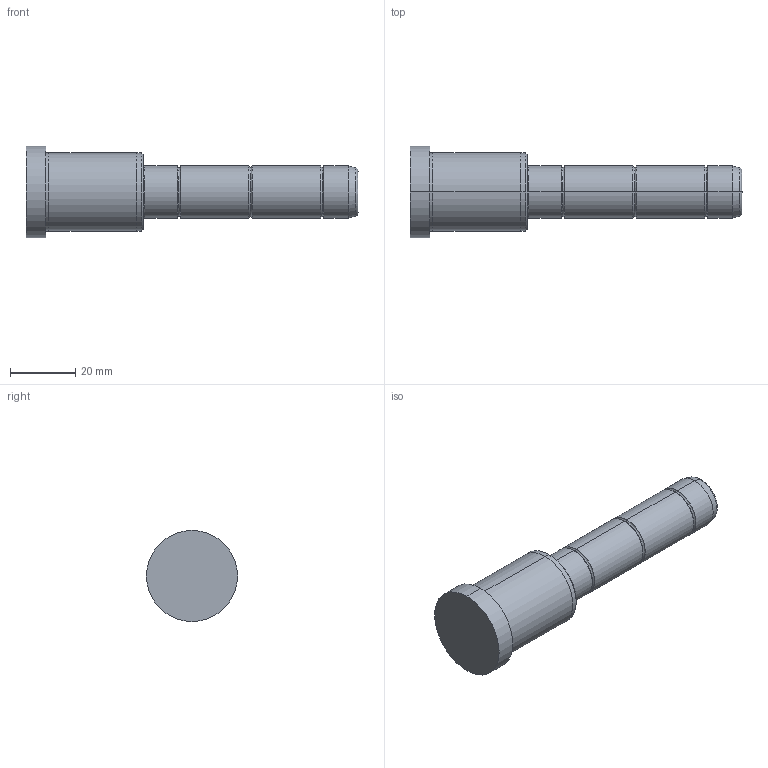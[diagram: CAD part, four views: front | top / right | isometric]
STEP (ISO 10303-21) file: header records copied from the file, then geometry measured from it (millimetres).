
FILE_DESCRIPTION( ( 'STEP AP203' ), '1' );
FILE_NAME( 'D:/Delta 3 D/D02/16/D02 - 16x36x66.step', '2003-01-04T13:13:54', ( ' ' ), ( ' ' ), 'XStep 1.0', ' ', ' ' );
FILE_SCHEMA( ( 'CONFIG_CONTROL_DESIGN' ) );
Length unit declared in the file: metre
Products named in the file (1): 1
Bounding box: 102 x 28 x 28 mm (x, y, z)
Volume: 30428.8 mm3; surface area: 7334.1 mm2
Topology: 1 solids, 1 shells, 42 faces, 82 edges, 46 vertices
Faces by surface type: bspline 22, revolution 20
Entity records: 1325 total; most frequent: CARTESIAN_POINT 517, ORIENTED_EDGE 164, DIRECTION 134, EDGE_CURVE 82, AXIS2_PLACEMENT_3D 47, EDGE_LOOP 46, VERTEX_POINT 46, CIRCLE 46
